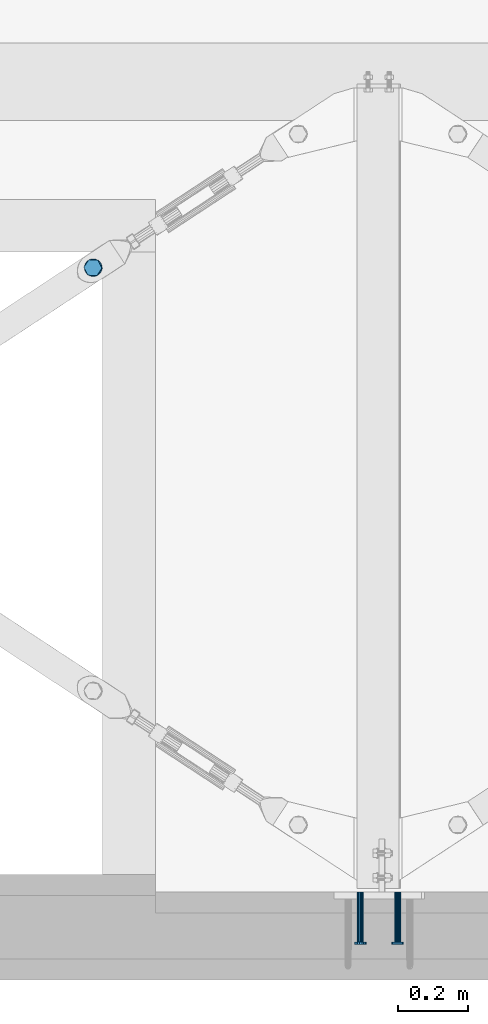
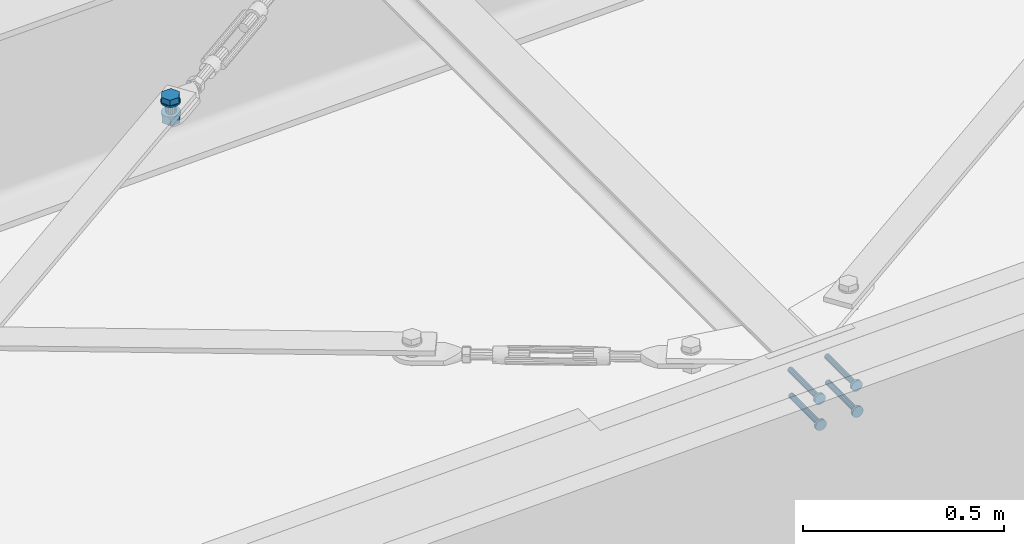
# One storey, part 102 of 476: 5 mechanical fasteners.
"""IFC2X3 building model written with IfcOpenShell, lengths in millimetres."""

from ifc_helpers import new_model, entity, si_unit, converted_unit, origin_with_axes, place, context, project, spatial, faceted_brep, element, save


model = new_model("IFC2X3")

# Units and contexts
model_context = context("Model", 3, precision=1e-09, world=origin_with_axes())
ifc_project = project(units=[si_unit("LENGTHUNIT", "METRE", prefix="MILLI"), si_unit("AREAUNIT", "SQUARE_METRE"), si_unit("VOLUMEUNIT", "CUBIC_METRE"), converted_unit("PLANEANGLEUNIT", "DEGREE", entity("IfcPlaneAngleMeasure", 0.01745329), si_unit("PLANEANGLEUNIT", "RADIAN"), dimensions=[0, 0, 0, 0, 0, 0, 0])], contexts=[model_context])

# Site, building, storey
site_placement = place(None, origin_with_axes())
site = spatial("IfcSite", under=ifc_project, at=site_placement, Name="mKR Teilneubau & Sanierung BA1 - Ostfildern", CompositionType="ELEMENT")
building_placement = place(site_placement, origin_with_axes())
building = spatial("IfcBuilding", under=site, at=building_placement, Name="Struktur 1", CompositionType="ELEMENT")
storey_placement = place(building_placement, origin_with_axes())
storey = spatial("IfcBuildingStorey", under=building, at=storey_placement, Name="Default Storey", CompositionType="ELEMENT", Elevation=0.0)

# Mechanical fasteners
mechanical_fastener_1_placement = place(None, origin_with_axes())
element("IfcMechanicalFastener", 1, at=mechanical_fastener_1_placement, inside=storey, ObjectType="-", NominalDiameter=27.0, NominalLength=70.0, context=model_context, shape_type="Brep", body=[
    faceted_brep([(10824.404040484, -21768.432771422, 5314.236535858), (10824.554250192, -21768.432771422, 5309.238792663), (10826.826598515, -21764.091093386, 5309.307089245), (10826.676388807, -21764.091093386, 5314.30483244), (10828.208647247, -21759.389326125, 5309.348627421), (10828.05843754, -21759.389326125, 5314.346370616), (10828.647285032, -21754.508155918, 5309.361810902), (10828.497075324, -21754.508155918, 5314.359554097), (10828.125655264, -21749.635163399, 5309.346133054), (10827.975445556, -21749.635163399, 5314.34387625), (10826.663803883, -21744.957614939, 5309.30219637), (10826.513594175, -21744.957614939, 5314.299939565), (10824.317909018, -21740.6552661, 5309.231689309), (10824.16769931, -21740.6552661, 5314.229432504), (10821.178122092, -21736.893453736, 5309.13732142), (10821.027912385, -21736.893453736, 5314.135064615), (10817.365103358, -21733.816742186, 5309.022719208), (10817.214893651, -21733.816742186, 5314.020462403), (10813.025384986, -21731.54336775, 5308.89228677), (10812.875175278, -21731.54336775, 5313.890029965), (10808.325739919, -21730.160694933, 5308.751036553), (10808.175530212, -21730.160694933, 5313.748779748), (10803.446772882, -21729.721859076, 5308.604396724), (10803.296563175, -21729.721859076, 5313.602139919), (10798.575979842, -21730.243724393, 5308.458002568), (10798.425770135, -21730.243724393, 5313.455745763), (10793.900542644, -21731.706235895, 5308.31747993), (10793.750332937, -21731.706235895, 5313.315223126), (10789.600135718, -21734.053190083, 5308.188229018), (10789.44992601, -21734.053190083, 5313.185972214), (10785.840021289, -21737.194394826, 5308.075216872), (10785.689811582, -21737.194394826, 5313.072960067), (10782.764698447, -21741.009135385, 5307.982786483), (10782.61448874, -21741.009135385, 5312.980529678), (10780.492350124, -21745.350813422, 5307.914489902), (10780.342140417, -21745.350813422, 5312.912233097), (10779.110301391, -21750.052580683, 5307.872951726), (10778.960091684, -21750.052580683, 5312.870694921), (10778.671663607, -21754.933750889, 5307.859768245), (10778.5214539, -21754.933750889, 5312.85751144), (10779.193293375, -21759.806743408, 5307.875446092), (10779.043083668, -21759.806743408, 5312.873189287), (10780.655144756, -21764.484291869, 5307.919382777), (10780.504935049, -21764.484291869, 5312.917125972), (10783.001039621, -21768.786640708, 5307.989889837), (10782.850829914, -21768.786640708, 5312.987633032), (10786.140826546, -21772.548453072, 5308.084257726), (10785.990616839, -21772.548453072, 5313.082000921), (10789.953845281, -21775.625164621, 5308.198859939), (10789.803635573, -21775.625164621, 5313.196603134), (10794.293563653, -21777.898539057, 5308.329292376), (10794.143353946, -21777.898539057, 5313.327035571), (10798.99320872, -21779.281211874, 5308.470542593), (10798.842999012, -21779.281211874, 5313.468285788), (10803.872175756, -21779.720047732, 5308.617182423), (10803.721966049, -21779.720047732, 5313.614925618), (10808.742968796, -21779.198182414, 5308.763576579), (10808.592759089, -21779.198182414, 5313.761319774), (10813.418405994, -21777.735670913, 5308.904099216), (10813.268196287, -21777.735670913, 5313.901842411), (10817.718812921, -21775.388716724, 5309.033350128), (10817.568603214, -21775.388716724, 5314.031093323), (10821.47892735, -21772.247511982, 5309.146362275), (10821.328717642, -21772.247511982, 5314.14410547)], [[[0, 1, 2, 3]], [[3, 2, 4, 5]], [[5, 4, 6, 7]], [[7, 6, 8, 9]], [[9, 8, 10, 11]], [[11, 10, 12, 13]], [[13, 12, 14, 15]], [[15, 14, 16, 17]], [[17, 16, 18, 19]], [[19, 18, 20, 21]], [[21, 20, 22, 23]], [[23, 22, 24, 25]], [[25, 24, 26, 27]], [[27, 26, 28, 29]], [[29, 28, 30, 31]], [[31, 30, 32, 33]], [[33, 32, 34, 35]], [[35, 34, 36, 37]], [[37, 36, 38, 39]], [[39, 38, 40, 41]], [[41, 40, 42, 43]], [[43, 42, 44, 45]], [[45, 44, 46, 47]], [[47, 46, 48, 49]], [[49, 48, 50, 51]], [[51, 50, 52, 53]], [[53, 52, 54, 55]], [[55, 54, 56, 57]], [[57, 56, 58, 59]], [[59, 58, 60, 61]], [[61, 60, 62, 63]], [[63, 62, 1, 0]], [[0, 3, 5, 7, 9, 11, 13, 15, 17, 19, 21, 23, 25, 27, 29, 31, 33, 35, 37, 39, 41, 43, 45, 47, 49, 51, 53, 55, 57, 59, 61, 63]], [[1, 62, 60, 58, 56, 54, 52, 50, 48, 46, 44, 42, 40, 38, 36, 34, 32, 30, 28, 26, 24, 22, 20, 18, 16, 14, 12, 10, 8, 6, 4, 2]]]),
    faceted_brep([(10792.075548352, -21732.014507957, 5313.264886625), (10791.564835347, -21732.014507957, 5330.257213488), (10816.937176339, -21733.461370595, 5331.01979207), (10817.447889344, -21733.461370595, 5314.027465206), (10828.370892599, -21756.167816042, 5331.363438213), (10828.881605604, -21756.167816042, 5314.37111135), (10814.432267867, -21777.42739885, 5330.944505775), (10814.942980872, -21777.42739885, 5313.952178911), (10789.059926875, -21775.980536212, 5330.181927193), (10789.57063988, -21775.980536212, 5313.18960033), (10777.626210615, -21753.274090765, 5329.83828105), (10778.13692362, -21753.274090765, 5312.845954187)], [[[0, 1, 2, 3]], [[3, 2, 4, 5]], [[5, 4, 6, 7]], [[7, 6, 8, 9]], [[9, 8, 10, 11]], [[11, 10, 1, 0]], [[4, 2, 1, 10, 8, 6]], [[0, 3, 5, 7, 9, 11]]]),
    faceted_brep([(10814.942662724, -21762.125335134, 5308.949597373), (10815.843911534, -21762.125335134, 5278.963452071), (10817.817285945, -21757.241874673, 5279.02276284), (10816.916037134, -21757.241874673, 5309.008908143), (10817.772470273, -21751.974626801, 5279.021415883), (10816.871221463, -21751.974626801, 5309.007561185), (10815.7162873, -21747.12548226, 5278.95961626), (10814.81503849, -21747.12548226, 5308.945761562), (10811.961772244, -21743.432679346, 5278.846772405), (10811.060523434, -21743.432679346, 5308.832917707), (10807.080515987, -21741.45841383, 5278.700063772), (10806.179267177, -21741.45841383, 5308.686209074), (10801.815645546, -21741.503249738, 5278.54182542), (10800.914396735, -21741.503249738, 5308.527970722), (10796.968689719, -21743.560361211, 5278.396147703), (10796.067440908, -21743.560361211, 5308.382293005), (10793.277553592, -21747.316571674, 5278.285208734), (10792.376304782, -21747.316571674, 5308.271354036), (10791.304179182, -21752.200032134, 5278.225897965), (10790.402930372, -21752.200032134, 5308.212043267), (10791.348994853, -21757.467280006, 5278.227244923), (10790.447746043, -21757.467280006, 5308.213390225), (10793.405177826, -21762.316424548, 5278.289044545), (10792.503929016, -21762.316424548, 5308.275189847), (10797.159692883, -21766.009227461, 5278.4018884), (10796.258444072, -21766.009227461, 5308.388033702), (10802.04094914, -21767.983492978, 5278.548597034), (10801.139700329, -21767.983492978, 5308.534742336), (10807.305819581, -21767.938657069, 5278.706835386), (10806.40457077, -21767.938657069, 5308.692980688), (10812.152775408, -21765.881545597, 5278.852513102), (10811.251526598, -21765.881545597, 5308.838658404)], [[[0, 1, 2, 3]], [[3, 2, 4, 5]], [[5, 4, 6, 7]], [[7, 6, 8, 9]], [[9, 8, 10, 11]], [[11, 10, 12, 13]], [[13, 12, 14, 15]], [[15, 14, 16, 17]], [[17, 16, 18, 19]], [[19, 18, 20, 21]], [[21, 20, 22, 23]], [[23, 22, 24, 25]], [[25, 24, 26, 27]], [[27, 26, 28, 29]], [[29, 28, 30, 31]], [[31, 30, 1, 0]], [[0, 3, 5, 7, 9, 11, 13, 15, 17, 19, 21, 23, 25, 27, 29, 31]], [[1, 30, 28, 26, 24, 22, 20, 18, 16, 14, 12, 10, 8, 6, 4, 2]]]),
    faceted_brep([(10825.455508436, -21768.432771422, 5279.252333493), (10825.605718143, -21768.432771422, 5274.254590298), (10827.878066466, -21764.091093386, 5274.322886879), (10827.727856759, -21764.091093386, 5279.320630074), (10829.260115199, -21759.389326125, 5274.364425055), (10829.109905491, -21759.389326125, 5279.36216825), (10829.698752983, -21754.508155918, 5274.377608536), (10829.548543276, -21754.508155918, 5279.375351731), (10829.177123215, -21749.635163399, 5274.361930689), (10829.026913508, -21749.635163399, 5279.359673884), (10827.715271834, -21744.957614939, 5274.317994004), (10827.565062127, -21744.957614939, 5279.315737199), (10825.369376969, -21740.6552661, 5274.247486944), (10825.219167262, -21740.6552661, 5279.245230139), (10822.229590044, -21736.893453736, 5274.153119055), (10822.079380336, -21736.893453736, 5279.15086225), (10818.416571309, -21733.816742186, 5274.038516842), (10818.266361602, -21733.816742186, 5279.036260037), (10814.076852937, -21731.54336775, 5273.908084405), (10813.92664323, -21731.54336775, 5278.9058276), (10809.37720787, -21730.160694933, 5273.766834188), (10809.226998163, -21730.160694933, 5278.764577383), (10804.498240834, -21729.721859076, 5273.620194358), (10804.348031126, -21729.721859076, 5278.617937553), (10799.627447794, -21730.243724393, 5273.473800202), (10799.477238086, -21730.243724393, 5278.471543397), (10794.952010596, -21731.706235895, 5273.333277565), (10794.801800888, -21731.706235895, 5278.33102076), (10790.651603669, -21734.053190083, 5273.204026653), (10790.501393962, -21734.053190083, 5278.201769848), (10786.89148924, -21737.194394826, 5273.091014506), (10786.741279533, -21737.194394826, 5278.088757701), (10783.816166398, -21741.009135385, 5272.998584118), (10783.665956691, -21741.009135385, 5277.996327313), (10781.543818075, -21745.350813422, 5272.930287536), (10781.393608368, -21745.350813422, 5277.928030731), (10780.161769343, -21750.052580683, 5272.88874936), (10780.011559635, -21750.052580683, 5277.886492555), (10779.723131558, -21754.933750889, 5272.875565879), (10779.572921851, -21754.933750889, 5277.873309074), (10780.244761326, -21759.806743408, 5272.891243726), (10780.094551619, -21759.806743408, 5277.888986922), (10781.706612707, -21764.484291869, 5272.935180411), (10781.556403, -21764.484291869, 5277.932923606), (10784.052507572, -21768.786640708, 5273.005687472), (10783.902297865, -21768.786640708, 5278.003430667), (10787.192294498, -21772.548453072, 5273.100055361), (10787.04208479, -21772.548453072, 5278.097798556), (10791.005313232, -21775.625164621, 5273.214657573), (10790.855103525, -21775.625164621, 5278.212400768), (10795.345031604, -21777.898539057, 5273.345090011), (10795.194821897, -21777.898539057, 5278.342833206), (10800.044676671, -21779.281211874, 5273.486340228), (10799.894466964, -21779.281211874, 5278.484083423), (10804.923643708, -21779.720047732, 5273.632980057), (10804.773434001, -21779.720047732, 5278.630723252), (10809.794436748, -21779.198182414, 5273.779374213), (10809.64422704, -21779.198182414, 5278.777117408), (10814.469873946, -21777.735670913, 5273.91989685), (10814.319664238, -21777.735670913, 5278.917640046), (10818.770280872, -21775.388716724, 5274.049147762), (10818.620071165, -21775.388716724, 5279.046890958), (10822.530395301, -21772.247511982, 5274.162159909), (10822.380185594, -21772.247511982, 5279.159903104)], [[[0, 1, 2, 3]], [[3, 2, 4, 5]], [[5, 4, 6, 7]], [[7, 6, 8, 9]], [[9, 8, 10, 11]], [[11, 10, 12, 13]], [[13, 12, 14, 15]], [[15, 14, 16, 17]], [[17, 16, 18, 19]], [[19, 18, 20, 21]], [[21, 20, 22, 23]], [[23, 22, 24, 25]], [[25, 24, 26, 27]], [[27, 26, 28, 29]], [[29, 28, 30, 31]], [[31, 30, 32, 33]], [[33, 32, 34, 35]], [[35, 34, 36, 37]], [[37, 36, 38, 39]], [[39, 38, 40, 41]], [[41, 40, 42, 43]], [[43, 42, 44, 45]], [[45, 44, 46, 47]], [[47, 46, 48, 49]], [[49, 48, 50, 51]], [[51, 50, 52, 53]], [[53, 52, 54, 55]], [[55, 54, 56, 57]], [[57, 56, 58, 59]], [[59, 58, 60, 61]], [[61, 60, 62, 63]], [[63, 62, 1, 0]], [[0, 3, 5, 7, 9, 11, 13, 15, 17, 19, 21, 23, 25, 27, 29, 31, 33, 35, 37, 39, 41, 43, 45, 47, 49, 51, 53, 55, 57, 59, 61, 63]], [[1, 62, 60, 58, 56, 54, 52, 50, 48, 46, 44, 42, 40, 38, 36, 34, 32, 30, 28, 26, 24, 22, 20, 18, 16, 14, 12, 10, 8, 6, 4, 2]]]),
    faceted_brep([(10793.904420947, -21731.947527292, 5251.291857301), (10793.243498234, -21731.947527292, 5273.281927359), (10818.69068389, -21733.398657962, 5274.046755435), (10819.351606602, -21733.398657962, 5252.056685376), (10830.158127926, -21756.172084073, 5274.391415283), (10830.819050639, -21756.172084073, 5252.401345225), (10816.178386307, -21777.494379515, 5273.971247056), (10816.839309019, -21777.494379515, 5251.981176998), (10790.731200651, -21776.043248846, 5273.206418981), (10791.392123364, -21776.043248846, 5251.216348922), (10779.263756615, -21753.269822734, 5272.861759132), (10779.924679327, -21753.269822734, 5250.871689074)], [[[0, 1, 2, 3]], [[3, 2, 4, 5]], [[5, 4, 6, 7]], [[7, 6, 8, 9]], [[9, 8, 10, 11]], [[11, 10, 1, 0]], [[4, 2, 1, 10, 8, 6]], [[0, 3, 5, 7, 9, 11]]]),
    faceted_brep([(10816.655034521, -21762.125335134, 5251.975952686), (10816.895379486, -21762.125335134, 5243.979249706), (10818.868753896, -21757.241874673, 5244.038560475), (10818.628408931, -21757.241874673, 5252.035263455), (10818.823938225, -21751.974626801, 5244.037213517), (10818.583593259, -21751.974626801, 5252.033916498), (10816.767755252, -21747.12548226, 5243.975413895), (10816.527410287, -21747.12548226, 5251.972116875), (10813.013240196, -21743.432679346, 5243.86257004), (10812.77289523, -21743.432679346, 5251.85927302), (10808.131983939, -21741.45841383, 5243.715861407), (10807.891638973, -21741.45841383, 5251.712564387), (10802.867113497, -21741.503249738, 5243.557623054), (10802.626768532, -21741.503249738, 5251.554326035), (10798.02015767, -21743.560361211, 5243.411945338), (10797.779812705, -21743.560361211, 5251.408648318), (10794.329021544, -21747.316571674, 5243.301006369), (10794.088676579, -21747.316571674, 5251.297709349), (10792.355647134, -21752.200032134, 5243.2416956), (10792.115302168, -21752.200032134, 5251.23839858), (10792.400462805, -21757.467280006, 5243.243042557), (10792.16011784, -21757.467280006, 5251.239745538), (10794.456645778, -21762.316424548, 5243.30484218), (10794.216300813, -21762.316424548, 5251.30154516), (10798.211160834, -21766.009227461, 5243.417686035), (10797.970815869, -21766.009227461, 5251.414389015), (10803.092417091, -21767.983492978, 5243.564394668), (10802.852072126, -21767.983492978, 5251.561097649), (10808.357287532, -21767.938657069, 5243.72263302), (10808.116942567, -21767.938657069, 5251.719336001), (10813.20424336, -21765.881545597, 5243.868310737), (10812.963898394, -21765.881545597, 5251.865013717)], [[[0, 1, 2, 3]], [[3, 2, 4, 5]], [[5, 4, 6, 7]], [[7, 6, 8, 9]], [[9, 8, 10, 11]], [[11, 10, 12, 13]], [[13, 12, 14, 15]], [[15, 14, 16, 17]], [[17, 16, 18, 19]], [[19, 18, 20, 21]], [[21, 20, 22, 23]], [[23, 22, 24, 25]], [[25, 24, 26, 27]], [[27, 26, 28, 29]], [[29, 28, 30, 31]], [[31, 30, 1, 0]], [[0, 3, 5, 7, 9, 11, 13, 15, 17, 19, 21, 23, 25, 27, 29, 31]], [[1, 30, 28, 26, 24, 22, 20, 18, 16, 14, 12, 10, 8, 6, 4, 2]]]),
])
mechanical_fastener_2_placement = place(None, origin_with_axes())
element("IfcMechanicalFastener", 2, at=mechanical_fastener_2_placement, inside=storey, ObjectType="-", NominalDiameter=16.0, NominalLength=150.0, context=model_context, shape_type="Brep", body=[
    faceted_brep([(11554.338077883, -23671.67387897, 5304.0704767), (11554.338077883, -23529.67387897, 5304.0704767), (11555.038739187, -23529.67387897, 5301.028685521), (11555.038739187, -23671.67387897, 5301.028685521), (11556.850108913, -23529.67387897, 5298.486568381), (11556.850108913, -23671.67387897, 5298.486568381), (11559.496422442, -23529.67387897, 5296.831139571), (11559.496422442, -23671.67387897, 5296.831139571), (11562.574802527, -23529.67387897, 5296.314423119), (11562.574802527, -23671.67387897, 5296.314423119), (11565.616593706, -23529.67387897, 5297.015084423), (11565.616593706, -23671.67387897, 5297.015084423), (11568.158710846, -23529.67387897, 5298.82645415), (11568.158710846, -23671.67387897, 5298.82645415), (11569.814139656, -23529.67387897, 5301.472767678), (11569.814139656, -23671.67387897, 5301.472767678), (11570.330856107, -23529.67387897, 5304.551147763), (11570.330856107, -23671.67387897, 5304.551147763), (11569.630194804, -23529.67387897, 5307.592938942), (11569.630194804, -23671.67387897, 5307.592938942), (11567.818825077, -23529.67387897, 5310.135056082), (11567.818825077, -23671.67387897, 5310.135056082), (11565.172511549, -23529.67387897, 5311.790484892), (11565.172511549, -23671.67387897, 5311.790484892), (11562.094131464, -23529.67387897, 5312.307201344), (11562.094131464, -23671.67387897, 5312.307201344), (11559.052340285, -23529.67387897, 5311.60654004), (11559.052340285, -23671.67387897, 5311.60654004), (11556.510223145, -23529.67387897, 5309.795170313), (11556.510223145, -23671.67387897, 5309.795170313), (11554.854794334, -23529.67387897, 5307.148856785), (11554.854794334, -23671.67387897, 5307.148856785)], [[[0, 1, 2, 3]], [[3, 2, 4, 5]], [[5, 4, 6, 7]], [[7, 6, 8, 9]], [[9, 8, 10, 11]], [[11, 10, 12, 13]], [[13, 12, 14, 15]], [[15, 14, 16, 17]], [[17, 16, 18, 19]], [[19, 18, 20, 21]], [[21, 20, 22, 23]], [[23, 22, 24, 25]], [[25, 24, 26, 27]], [[27, 26, 28, 29]], [[29, 28, 30, 31]], [[31, 30, 1, 0]], [[0, 3, 5, 7, 9, 11, 13, 15, 17, 19, 21, 23, 25, 27, 29, 31]], [[1, 30, 28, 26, 24, 22, 20, 18, 16, 14, 12, 10, 8, 6, 4, 2]]]),
    faceted_brep([(11546.341688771, -23679.67387897, 5303.830141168), (11546.341688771, -23671.67387897, 5303.830141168), (11547.743011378, -23671.67387897, 5297.74655881), (11547.743011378, -23679.67387897, 5297.74655881), (11551.365750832, -23671.67387897, 5292.662324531), (11551.365750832, -23679.67387897, 5292.662324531), (11556.658377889, -23671.67387897, 5289.35146691), (11556.658377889, -23679.67387897, 5289.35146691), (11562.815138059, -23671.67387897, 5288.318034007), (11562.815138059, -23679.67387897, 5288.318034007), (11568.898720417, -23671.67387897, 5289.719356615), (11568.898720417, -23679.67387897, 5289.719356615), (11573.982954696, -23671.67387897, 5293.342096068), (11573.982954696, -23679.67387897, 5293.342096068), (11577.293812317, -23671.67387897, 5298.634723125), (11577.293812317, -23679.67387897, 5298.634723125), (11578.32724522, -23671.67387897, 5304.791483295), (11578.32724522, -23679.67387897, 5304.791483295), (11576.925922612, -23671.67387897, 5310.875065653), (11576.925922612, -23679.67387897, 5310.875065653), (11573.303183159, -23671.67387897, 5315.959299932), (11573.303183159, -23679.67387897, 5315.959299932), (11568.010556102, -23671.67387897, 5319.270157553), (11568.010556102, -23679.67387897, 5319.270157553), (11561.853795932, -23671.67387897, 5320.303590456), (11561.853795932, -23679.67387897, 5320.303590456), (11555.770213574, -23671.67387897, 5318.902267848), (11555.770213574, -23679.67387897, 5318.902267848), (11550.685979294, -23671.67387897, 5315.279528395), (11550.685979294, -23679.67387897, 5315.279528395), (11547.375121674, -23671.67387897, 5309.986901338), (11547.375121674, -23679.67387897, 5309.986901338)], [[[0, 1, 2, 3]], [[3, 2, 4, 5]], [[5, 4, 6, 7]], [[7, 6, 8, 9]], [[9, 8, 10, 11]], [[11, 10, 12, 13]], [[13, 12, 14, 15]], [[15, 14, 16, 17]], [[17, 16, 18, 19]], [[19, 18, 20, 21]], [[21, 20, 22, 23]], [[23, 22, 24, 25]], [[25, 24, 26, 27]], [[27, 26, 28, 29]], [[29, 28, 30, 31]], [[31, 30, 1, 0]], [[0, 3, 5, 7, 9, 11, 13, 15, 17, 19, 21, 23, 25, 27, 29, 31]], [[1, 30, 28, 26, 24, 22, 20, 18, 16, 14, 12, 10, 8, 6, 4, 2]]]),
])
mechanical_fastener_3_placement = place(None, origin_with_axes())
element("IfcMechanicalFastener", 3, at=mechanical_fastener_3_placement, inside=storey, ObjectType="-", NominalDiameter=16.0, NominalLength=150.0, context=model_context, shape_type="Brep", body=[
    faceted_brep([(11660.290233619, -23671.67387897, 5307.254922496), (11660.290233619, -23529.67387897, 5307.254922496), (11660.990894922, -23529.67387897, 5304.213131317), (11660.990894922, -23671.67387897, 5304.213131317), (11662.802264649, -23529.67387897, 5301.671014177), (11662.802264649, -23671.67387897, 5301.671014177), (11665.448578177, -23529.67387897, 5300.015585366), (11665.448578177, -23671.67387897, 5300.015585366), (11668.526958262, -23529.67387897, 5299.498868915), (11668.526958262, -23671.67387897, 5299.498868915), (11671.568749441, -23529.67387897, 5300.199530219), (11671.568749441, -23671.67387897, 5300.199530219), (11674.110866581, -23529.67387897, 5302.010899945), (11674.110866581, -23671.67387897, 5302.010899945), (11675.766295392, -23529.67387897, 5304.657213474), (11675.766295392, -23671.67387897, 5304.657213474), (11676.283011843, -23529.67387897, 5307.735593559), (11676.283011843, -23671.67387897, 5307.735593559), (11675.582350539, -23529.67387897, 5310.777384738), (11675.582350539, -23671.67387897, 5310.777384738), (11673.770980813, -23529.67387897, 5313.319501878), (11673.770980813, -23671.67387897, 5313.319501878), (11671.124667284, -23529.67387897, 5314.974930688), (11671.124667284, -23671.67387897, 5314.974930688), (11668.046287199, -23529.67387897, 5315.491647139), (11668.046287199, -23671.67387897, 5315.491647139), (11665.00449602, -23529.67387897, 5314.790985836), (11665.00449602, -23671.67387897, 5314.790985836), (11662.46237888, -23529.67387897, 5312.979616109), (11662.46237888, -23671.67387897, 5312.979616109), (11660.80695007, -23529.67387897, 5310.33330258), (11660.80695007, -23671.67387897, 5310.33330258)], [[[0, 1, 2, 3]], [[3, 2, 4, 5]], [[5, 4, 6, 7]], [[7, 6, 8, 9]], [[9, 8, 10, 11]], [[11, 10, 12, 13]], [[13, 12, 14, 15]], [[15, 14, 16, 17]], [[17, 16, 18, 19]], [[19, 18, 20, 21]], [[21, 20, 22, 23]], [[23, 22, 24, 25]], [[25, 24, 26, 27]], [[27, 26, 28, 29]], [[29, 28, 30, 31]], [[31, 30, 1, 0]], [[0, 3, 5, 7, 9, 11, 13, 15, 17, 19, 21, 23, 25, 27, 29, 31]], [[1, 30, 28, 26, 24, 22, 20, 18, 16, 14, 12, 10, 8, 6, 4, 2]]]),
    faceted_brep([(11652.293844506, -23679.67387897, 5307.014586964), (11652.293844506, -23671.67387897, 5307.014586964), (11653.695167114, -23671.67387897, 5300.931004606), (11653.695167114, -23679.67387897, 5300.931004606), (11657.317906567, -23671.67387897, 5295.846770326), (11657.317906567, -23679.67387897, 5295.846770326), (11662.610533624, -23671.67387897, 5292.535912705), (11662.610533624, -23679.67387897, 5292.535912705), (11668.767293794, -23671.67387897, 5291.502479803), (11668.767293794, -23679.67387897, 5291.502479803), (11674.850876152, -23671.67387897, 5292.90380241), (11674.850876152, -23679.67387897, 5292.90380241), (11679.935110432, -23671.67387897, 5296.526541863), (11679.935110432, -23679.67387897, 5296.526541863), (11683.245968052, -23671.67387897, 5301.819168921), (11683.245968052, -23679.67387897, 5301.819168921), (11684.279400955, -23671.67387897, 5307.975929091), (11684.279400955, -23679.67387897, 5307.975929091), (11682.878078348, -23671.67387897, 5314.059511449), (11682.878078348, -23679.67387897, 5314.059511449), (11679.255338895, -23671.67387897, 5319.143745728), (11679.255338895, -23679.67387897, 5319.143745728), (11673.962711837, -23671.67387897, 5322.454603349), (11673.962711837, -23679.67387897, 5322.454603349), (11667.805951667, -23671.67387897, 5323.488036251), (11667.805951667, -23679.67387897, 5323.488036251), (11661.722369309, -23671.67387897, 5322.086713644), (11661.722369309, -23679.67387897, 5322.086713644), (11656.63813503, -23671.67387897, 5318.463974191), (11656.63813503, -23679.67387897, 5318.463974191), (11653.327277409, -23671.67387897, 5313.171347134), (11653.327277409, -23679.67387897, 5313.171347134)], [[[0, 1, 2, 3]], [[3, 2, 4, 5]], [[5, 4, 6, 7]], [[7, 6, 8, 9]], [[9, 8, 10, 11]], [[11, 10, 12, 13]], [[13, 12, 14, 15]], [[15, 14, 16, 17]], [[17, 16, 18, 19]], [[19, 18, 20, 21]], [[21, 20, 22, 23]], [[23, 22, 24, 25]], [[25, 24, 26, 27]], [[27, 26, 28, 29]], [[29, 28, 30, 31]], [[31, 30, 1, 0]], [[0, 3, 5, 7, 9, 11, 13, 15, 17, 19, 21, 23, 25, 27, 29, 31]], [[1, 30, 28, 26, 24, 22, 20, 18, 16, 14, 12, 10, 8, 6, 4, 2]]]),
])
mechanical_fastener_4_placement = place(None, origin_with_axes())
element("IfcMechanicalFastener", 4, at=mechanical_fastener_4_placement, inside=storey, ObjectType="-", NominalDiameter=16.0, NominalLength=150.0, context=model_context, shape_type="Brep", body=[
    faceted_brep([(11662.693588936, -23671.67387897, 5227.291031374), (11662.693588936, -23529.67387897, 5227.291031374), (11663.39425024, -23529.67387897, 5224.249240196), (11663.39425024, -23671.67387897, 5224.249240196), (11665.205619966, -23529.67387897, 5221.707123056), (11665.205619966, -23671.67387897, 5221.707123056), (11667.851933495, -23529.67387897, 5220.051694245), (11667.851933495, -23671.67387897, 5220.051694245), (11670.93031358, -23529.67387897, 5219.534977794), (11670.93031358, -23671.67387897, 5219.534977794), (11673.972104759, -23529.67387897, 5220.235639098), (11673.972104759, -23671.67387897, 5220.235639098), (11676.514221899, -23529.67387897, 5222.047008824), (11676.514221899, -23671.67387897, 5222.047008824), (11678.169650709, -23529.67387897, 5224.693322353), (11678.169650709, -23671.67387897, 5224.693322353), (11678.68636716, -23529.67387897, 5227.771702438), (11678.68636716, -23671.67387897, 5227.771702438), (11677.985705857, -23529.67387897, 5230.813493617), (11677.985705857, -23671.67387897, 5230.813493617), (11676.17433613, -23529.67387897, 5233.355610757), (11676.17433613, -23671.67387897, 5233.355610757), (11673.528022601, -23529.67387897, 5235.011039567), (11673.528022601, -23671.67387897, 5235.011039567), (11670.449642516, -23529.67387897, 5235.527756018), (11670.449642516, -23671.67387897, 5235.527756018), (11667.407851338, -23529.67387897, 5234.827094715), (11667.407851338, -23671.67387897, 5234.827094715), (11664.865734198, -23529.67387897, 5233.015724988), (11664.865734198, -23671.67387897, 5233.015724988), (11663.210305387, -23529.67387897, 5230.369411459), (11663.210305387, -23671.67387897, 5230.369411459)], [[[0, 1, 2, 3]], [[3, 2, 4, 5]], [[5, 4, 6, 7]], [[7, 6, 8, 9]], [[9, 8, 10, 11]], [[11, 10, 12, 13]], [[13, 12, 14, 15]], [[15, 14, 16, 17]], [[17, 16, 18, 19]], [[19, 18, 20, 21]], [[21, 20, 22, 23]], [[23, 22, 24, 25]], [[25, 24, 26, 27]], [[27, 26, 28, 29]], [[29, 28, 30, 31]], [[31, 30, 1, 0]], [[0, 3, 5, 7, 9, 11, 13, 15, 17, 19, 21, 23, 25, 27, 29, 31]], [[1, 30, 28, 26, 24, 22, 20, 18, 16, 14, 12, 10, 8, 6, 4, 2]]]),
    faceted_brep([(11654.697199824, -23679.67387897, 5227.050695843), (11654.697199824, -23671.67387897, 5227.050695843), (11656.098522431, -23671.67387897, 5220.967113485), (11656.098522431, -23679.67387897, 5220.967113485), (11659.721261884, -23671.67387897, 5215.882879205), (11659.721261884, -23679.67387897, 5215.882879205), (11665.013888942, -23671.67387897, 5212.572021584), (11665.013888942, -23679.67387897, 5212.572021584), (11671.170649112, -23671.67387897, 5211.538588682), (11671.170649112, -23679.67387897, 5211.538588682), (11677.25423147, -23671.67387897, 5212.939911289), (11677.25423147, -23679.67387897, 5212.939911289), (11682.338465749, -23671.67387897, 5216.562650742), (11682.338465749, -23679.67387897, 5216.562650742), (11685.64932337, -23671.67387897, 5221.8552778), (11685.64932337, -23679.67387897, 5221.8552778), (11686.682756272, -23671.67387897, 5228.01203797), (11686.682756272, -23679.67387897, 5228.01203797), (11685.281433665, -23671.67387897, 5234.095620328), (11685.281433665, -23679.67387897, 5234.095620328), (11681.658694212, -23671.67387897, 5239.179854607), (11681.658694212, -23679.67387897, 5239.179854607), (11676.366067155, -23671.67387897, 5242.490712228), (11676.366067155, -23679.67387897, 5242.490712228), (11670.209306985, -23671.67387897, 5243.52414513), (11670.209306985, -23679.67387897, 5243.52414513), (11664.125724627, -23671.67387897, 5242.122822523), (11664.125724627, -23679.67387897, 5242.122822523), (11659.041490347, -23671.67387897, 5238.50008307), (11659.041490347, -23679.67387897, 5238.50008307), (11655.730632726, -23671.67387897, 5233.207456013), (11655.730632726, -23679.67387897, 5233.207456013)], [[[0, 1, 2, 3]], [[3, 2, 4, 5]], [[5, 4, 6, 7]], [[7, 6, 8, 9]], [[9, 8, 10, 11]], [[11, 10, 12, 13]], [[13, 12, 14, 15]], [[15, 14, 16, 17]], [[17, 16, 18, 19]], [[19, 18, 20, 21]], [[21, 20, 22, 23]], [[23, 22, 24, 25]], [[25, 24, 26, 27]], [[27, 26, 28, 29]], [[29, 28, 30, 31]], [[31, 30, 1, 0]], [[0, 3, 5, 7, 9, 11, 13, 15, 17, 19, 21, 23, 25, 27, 29, 31]], [[1, 30, 28, 26, 24, 22, 20, 18, 16, 14, 12, 10, 8, 6, 4, 2]]]),
])
mechanical_fastener_5_placement = place(None, origin_with_axes())
element("IfcMechanicalFastener", 5, at=mechanical_fastener_5_placement, inside=storey, ObjectType="-", NominalDiameter=16.0, NominalLength=150.0, context=model_context, shape_type="Brep", body=[
    faceted_brep([(11556.955352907, -23671.67387897, 5224.113015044), (11556.955352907, -23529.67387897, 5224.113015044), (11557.656014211, -23529.67387897, 5221.071223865), (11557.656014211, -23671.67387897, 5221.071223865), (11559.467383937, -23529.67387897, 5218.529106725), (11559.467383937, -23671.67387897, 5218.529106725), (11562.113697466, -23529.67387897, 5216.873677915), (11562.113697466, -23671.67387897, 5216.873677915), (11565.192077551, -23529.67387897, 5216.356961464), (11565.192077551, -23671.67387897, 5216.356961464), (11568.23386873, -23529.67387897, 5217.057622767), (11568.23386873, -23671.67387897, 5217.057622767), (11570.77598587, -23529.67387897, 5218.868992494), (11570.77598587, -23671.67387897, 5218.868992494), (11572.43141468, -23529.67387897, 5221.515306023), (11572.43141468, -23671.67387897, 5221.515306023), (11572.948131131, -23529.67387897, 5224.593686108), (11572.948131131, -23671.67387897, 5224.593686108), (11572.247469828, -23529.67387897, 5227.635477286), (11572.247469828, -23671.67387897, 5227.635477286), (11570.436100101, -23529.67387897, 5230.177594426), (11570.436100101, -23671.67387897, 5230.177594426), (11567.789786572, -23529.67387897, 5231.833023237), (11567.789786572, -23671.67387897, 5231.833023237), (11564.711406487, -23529.67387897, 5232.349739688), (11564.711406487, -23671.67387897, 5232.349739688), (11561.669615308, -23529.67387897, 5231.649078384), (11561.669615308, -23671.67387897, 5231.649078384), (11559.127498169, -23529.67387897, 5229.837708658), (11559.127498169, -23671.67387897, 5229.837708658), (11557.472069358, -23529.67387897, 5227.191395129), (11557.472069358, -23671.67387897, 5227.191395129)], [[[0, 1, 2, 3]], [[3, 2, 4, 5]], [[5, 4, 6, 7]], [[7, 6, 8, 9]], [[9, 8, 10, 11]], [[11, 10, 12, 13]], [[13, 12, 14, 15]], [[15, 14, 16, 17]], [[17, 16, 18, 19]], [[19, 18, 20, 21]], [[21, 20, 22, 23]], [[23, 22, 24, 25]], [[25, 24, 26, 27]], [[27, 26, 28, 29]], [[29, 28, 30, 31]], [[31, 30, 1, 0]], [[0, 3, 5, 7, 9, 11, 13, 15, 17, 19, 21, 23, 25, 27, 29, 31]], [[1, 30, 28, 26, 24, 22, 20, 18, 16, 14, 12, 10, 8, 6, 4, 2]]]),
    faceted_brep([(11548.958963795, -23679.67387897, 5223.872679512), (11548.958963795, -23671.67387897, 5223.872679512), (11550.360286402, -23671.67387897, 5217.789097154), (11550.360286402, -23679.67387897, 5217.789097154), (11553.983025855, -23671.67387897, 5212.704862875), (11553.983025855, -23679.67387897, 5212.704862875), (11559.275652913, -23671.67387897, 5209.394005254), (11559.275652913, -23679.67387897, 5209.394005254), (11565.432413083, -23671.67387897, 5208.360572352), (11565.432413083, -23679.67387897, 5208.360572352), (11571.51599544, -23671.67387897, 5209.761894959), (11571.51599544, -23679.67387897, 5209.761894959), (11576.60022972, -23671.67387897, 5213.384634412), (11576.60022972, -23679.67387897, 5213.384634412), (11579.911087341, -23671.67387897, 5218.677261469), (11579.911087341, -23679.67387897, 5218.677261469), (11580.944520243, -23671.67387897, 5224.834021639), (11580.944520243, -23679.67387897, 5224.834021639), (11579.543197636, -23671.67387897, 5230.917603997), (11579.543197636, -23679.67387897, 5230.917603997), (11575.920458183, -23671.67387897, 5236.001838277), (11575.920458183, -23679.67387897, 5236.001838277), (11570.627831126, -23671.67387897, 5239.312695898), (11570.627831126, -23679.67387897, 5239.312695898), (11564.471070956, -23671.67387897, 5240.3461288), (11564.471070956, -23679.67387897, 5240.3461288), (11558.387488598, -23671.67387897, 5238.944806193), (11558.387488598, -23679.67387897, 5238.944806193), (11553.303254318, -23671.67387897, 5235.32206674), (11553.303254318, -23679.67387897, 5235.32206674), (11549.992396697, -23671.67387897, 5230.029439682), (11549.992396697, -23679.67387897, 5230.029439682)], [[[0, 1, 2, 3]], [[3, 2, 4, 5]], [[5, 4, 6, 7]], [[7, 6, 8, 9]], [[9, 8, 10, 11]], [[11, 10, 12, 13]], [[13, 12, 14, 15]], [[15, 14, 16, 17]], [[17, 16, 18, 19]], [[19, 18, 20, 21]], [[21, 20, 22, 23]], [[23, 22, 24, 25]], [[25, 24, 26, 27]], [[27, 26, 28, 29]], [[29, 28, 30, 31]], [[31, 30, 1, 0]], [[0, 3, 5, 7, 9, 11, 13, 15, 17, 19, 21, 23, 25, 27, 29, 31]], [[1, 30, 28, 26, 24, 22, 20, 18, 16, 14, 12, 10, 8, 6, 4, 2]]]),
])

save(model, "model.ifc")
